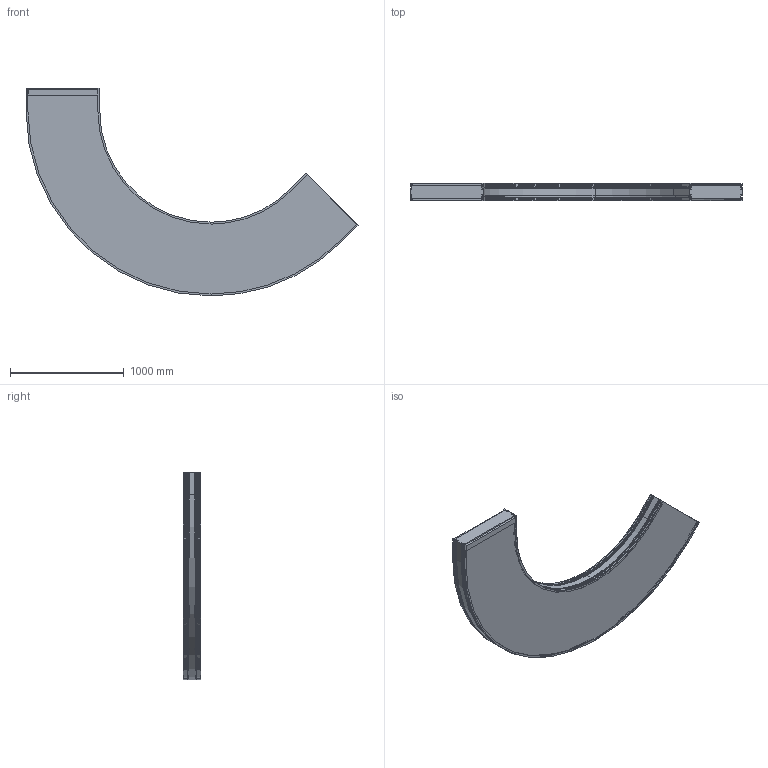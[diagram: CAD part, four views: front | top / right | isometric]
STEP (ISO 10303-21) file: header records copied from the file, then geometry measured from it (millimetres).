
FILE_DESCRIPTION (( 'STEP AP203' ), '1' );
FILE_NAME ('F2-2400-C180.STEP', '2009-02-16T12:24:06', ( 'faber' ), ( '' ), 'SwSTEP 2.0', 'SolidWorks 2008', '' );
FILE_SCHEMA (( 'CONFIG_CONTROL_DESIGN' ));
Length unit declared in the file: millimetre
Products named in the file (3): Tapis_2400; Courbe_2400; F2-2400-C180
Assembly tree (3 placements, depth 2):
  F2-2400-C180
    Tapis_2400  x2
    Courbe_2400
Bounding box: 2912.91 x 152.88 x 1823.5 mm (x, y, z)
Volume: 256017937.4 mm3; surface area: 7638547.5 mm2
Topology: 3 solids, 3 shells, 232 faces, 678 edges, 452 vertices
Faces by surface type: plane 148, cylinder 84
Entity records: 7743 total; most frequent: CARTESIAN_POINT 1318, ORIENTED_EDGE 1308, DIRECTION 1278, EDGE_CURVE 654, VECTOR 486, LINE 486, VERTEX_POINT 436, AXIS2_PLACEMENT_3D 396
